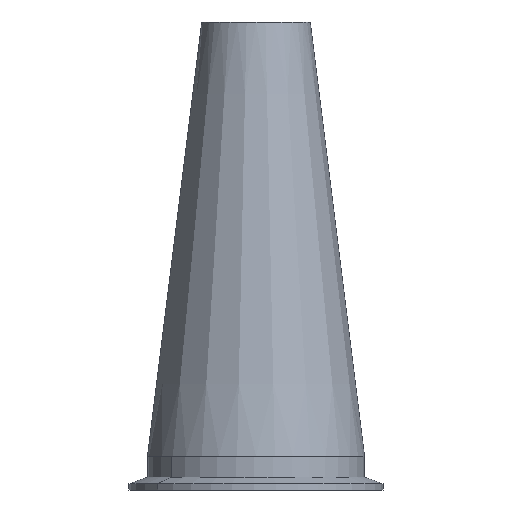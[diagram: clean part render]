
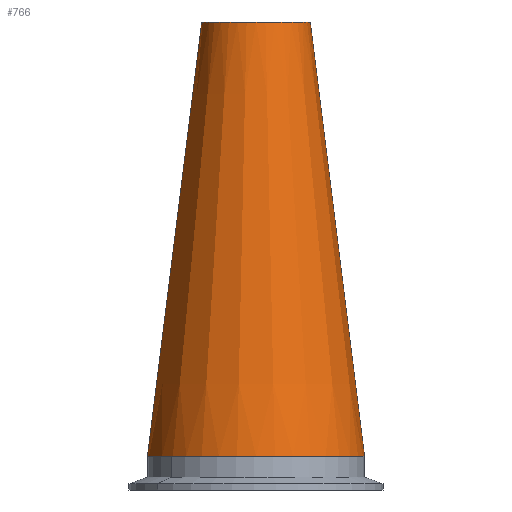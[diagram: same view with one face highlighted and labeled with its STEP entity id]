
A CAD part, front view. The second image highlights one B-rep face of the part: STEP entity #766.
In plain terms, the highlighted conical face has half-angle 7.125 degrees and reference radius 50.8 mm.
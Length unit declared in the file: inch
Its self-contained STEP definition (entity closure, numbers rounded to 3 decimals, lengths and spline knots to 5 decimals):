
#2 = EDGE_LOOP ( 'NONE', ( #547, #624, #798, #652 ) ) ;
#52 = LINE ( 'NONE', #620, #540 ) ;
#62 = VECTOR ( 'NONE', #471, 39.37008 ) ;
#93 = VERTEX_POINT ( 'NONE', #529 ) ;
#115 = DIRECTION ( 'NONE',  ( 1., 0., 0. ) ) ;
#116 = FACE_OUTER_BOUND ( 'NONE', #2, .T. ) ;
#193 = CIRCLE ( 'NONE', #765, 2. ) ;
#228 = VERTEX_POINT ( 'NONE', #858 ) ;
#262 = CONICAL_SURFACE ( 'NONE', #676, 2., 0.124 ) ;
#265 = LINE ( 'NONE', #399, #62 ) ;
#324 = DIRECTION ( 'NONE',  ( 0.124, 0., -0.992 ) ) ;
#362 = AXIS2_PLACEMENT_3D ( 'NONE', #530, #524, #686 ) ;
#378 = VERTEX_POINT ( 'NONE', #461 ) ;
#381 = EDGE_CURVE ( 'NONE', #93, #228, #193, .T. ) ;
#399 = CARTESIAN_POINT ( 'NONE',  ( -2., 0., -8. ) ) ;
#406 = CARTESIAN_POINT ( 'NONE',  ( 0., 0., -8. ) ) ;
#420 = EDGE_CURVE ( 'NONE', #378, #93, #265, .T. ) ;
#436 = EDGE_CURVE ( 'NONE', #378, #725, #583, .T. ) ;
#461 = CARTESIAN_POINT ( 'NONE',  ( -1., 0., 0. ) ) ;
#471 = DIRECTION ( 'NONE',  ( -0.124, 0., -0.992 ) ) ;
#524 = DIRECTION ( 'NONE',  ( 0., 0., 1. ) ) ;
#529 = CARTESIAN_POINT ( 'NONE',  ( -2., 0., -8. ) ) ;
#530 = CARTESIAN_POINT ( 'NONE',  ( 0., 0., 0. ) ) ;
#540 = VECTOR ( 'NONE', #324, 39.37008 ) ;
#547 = ORIENTED_EDGE ( 'NONE', *, *, #758, .F. ) ;
#583 = CIRCLE ( 'NONE', #362, 1. ) ;
#620 = CARTESIAN_POINT ( 'NONE',  ( 2., 0., -8. ) ) ;
#624 = ORIENTED_EDGE ( 'NONE', *, *, #436, .F. ) ;
#652 = ORIENTED_EDGE ( 'NONE', *, *, #381, .T. ) ;
#672 = CARTESIAN_POINT ( 'NONE',  ( 0., 0., -8. ) ) ;
#676 = AXIS2_PLACEMENT_3D ( 'NONE', #406, #695, #915 ) ;
#686 = DIRECTION ( 'NONE',  ( 1., 0., 0. ) ) ;
#695 = DIRECTION ( 'NONE',  ( 0., 0., -1. ) ) ;
#725 = VERTEX_POINT ( 'NONE', #855 ) ;
#757 = DIRECTION ( 'NONE',  ( 0., 0., 1. ) ) ;
#758 = EDGE_CURVE ( 'NONE', #725, #228, #52, .T. ) ;
#765 = AXIS2_PLACEMENT_3D ( 'NONE', #672, #757, #115 ) ;
#766 = ADVANCED_FACE ( 'NONE', ( #116 ), #262, .T. ) ;
#798 = ORIENTED_EDGE ( 'NONE', *, *, #420, .T. ) ;
#855 = CARTESIAN_POINT ( 'NONE',  ( 1., 0., 0. ) ) ;
#858 = CARTESIAN_POINT ( 'NONE',  ( 2., 0., -8. ) ) ;
#915 = DIRECTION ( 'NONE',  ( -1., 0., 0. ) ) ;
